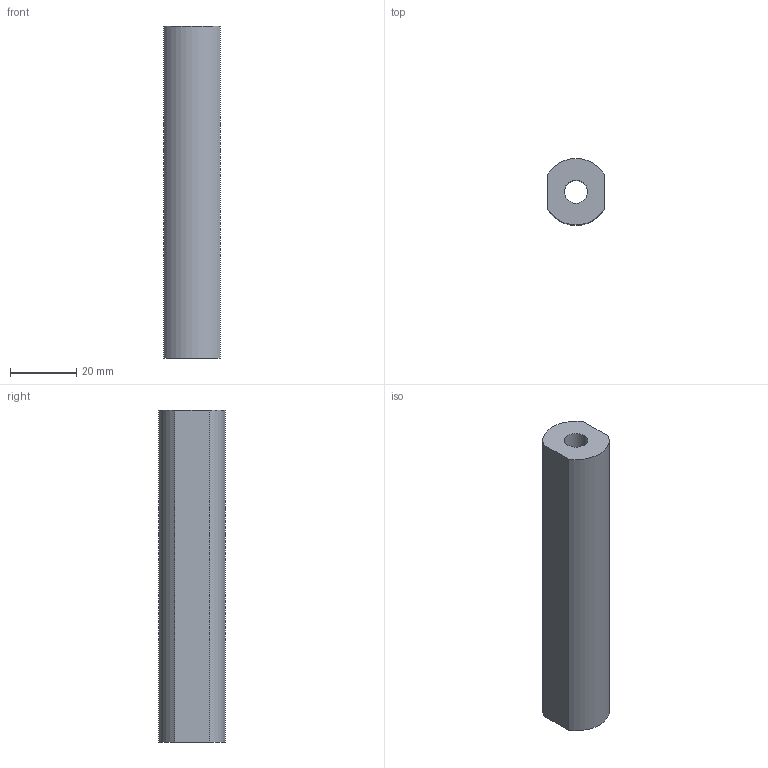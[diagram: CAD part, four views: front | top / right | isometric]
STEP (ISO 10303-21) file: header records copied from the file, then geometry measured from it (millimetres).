
FILE_DESCRIPTION (( 'STEP AP214' ), '1' );
FILE_NAME ('FGDT 100.step', '2017-04-05T07:36:51', ( '' ), ( '' ), 'SwSTEP 2.0', 'SolidWorks 2015', '' );
FILE_SCHEMA (( 'AUTOMOTIVE_DESIGN' ));
Length unit declared in the file: millimetre
Products named in the file (1): FGDT 100
Bounding box: 17 x 20 x 100 mm (x, y, z)
Volume: 25426.6 mm3; surface area: 8878.7 mm2
Topology: 1 solids, 1 shells, 8 faces, 18 edges, 12 vertices
Faces by surface type: cylinder 4, plane 4
Entity records: 268 total; most frequent: DIRECTION 44, CARTESIAN_POINT 39, ORIENTED_EDGE 36, EDGE_CURVE 18, AXIS2_PLACEMENT_3D 17, VERTEX_POINT 12, EDGE_LOOP 10, VECTOR 10
